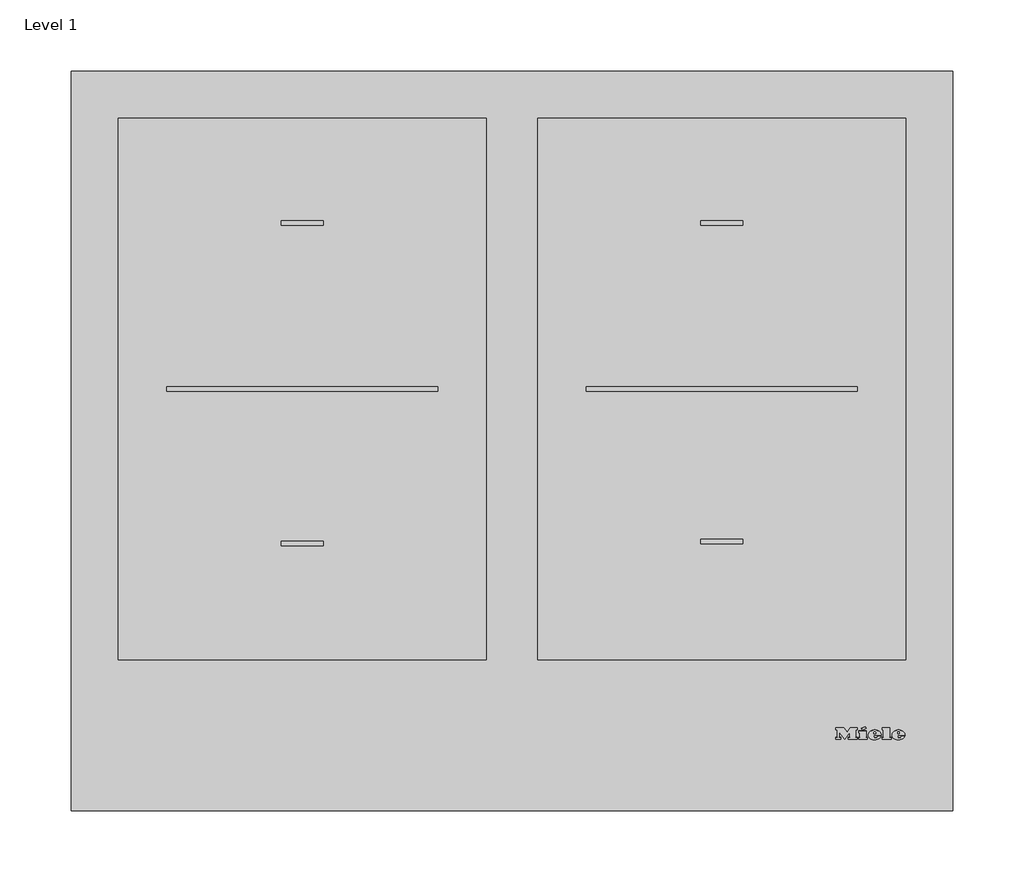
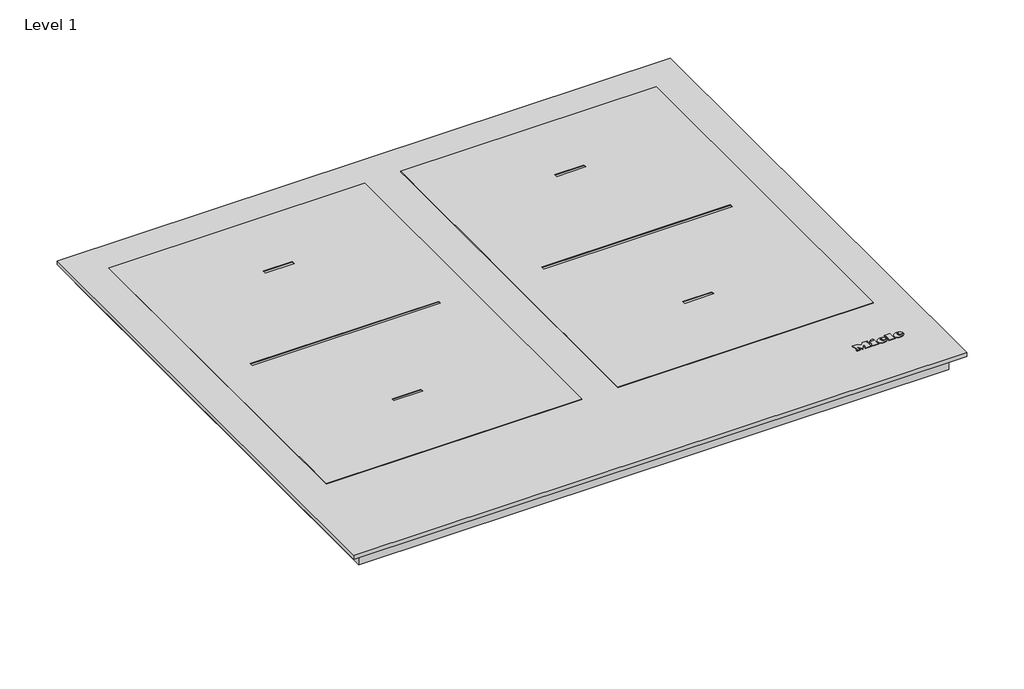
# One storey: 1 proxy.
"""IFC4 building model written with IfcOpenShell, lengths in millimetres."""

from ifc_helpers import new_model, si_unit, origin, place, context, project, spatial, transform, mapped, element, save
from components import specialty_equipment_201f2936

model = new_model("IFC4")

# Units and contexts
model_context = context("Model", 3, world=origin())
ifc_project = project(units=[si_unit("LENGTHUNIT", "METRE", prefix="MILLI")], contexts=[model_context])

# Site, building, storey
site = spatial("IfcSite", under=ifc_project)
building = spatial("IfcBuilding", under=site)
storey = spatial("IfcBuildingStorey", under=building, Name="Level 1", Elevation=0.0)

# Proxy
placement = place(None, origin())
specialty_equipment_shape = specialty_equipment_201f2936(model_context)
element("IfcBuildingElementProxy", 1, Name="11022960_D_KM7564FL : 26756470_D_11022960_KM7564FL", ObjectType="11022960_D_KM7564FL : 26756470_D_11022960_KM7564FL", at=placement, inside=storey, context=model_context, shape_type="MappedRepresentation", body=[
    mapped(specialty_equipment_shape, transform((0.0, 0.0, 0.0), x_axis=(1.0, 0.0, 0.0), y_axis=(0.0, 1.0, 0.0), z_axis=(0.0, 0.0, 1.0))),
])

save(model, "model.ifc")
